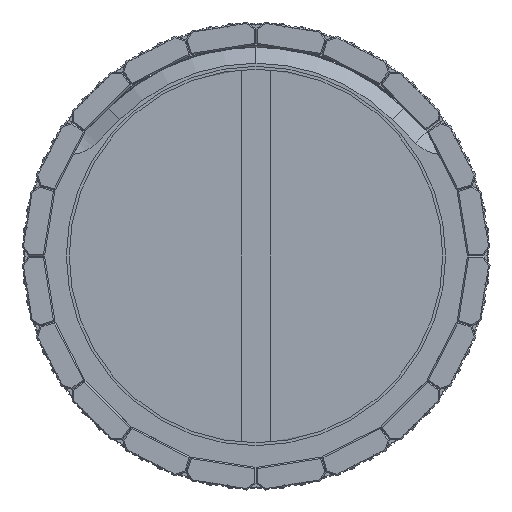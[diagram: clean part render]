
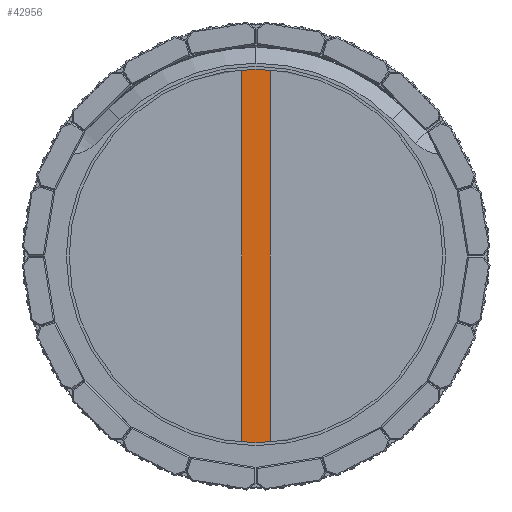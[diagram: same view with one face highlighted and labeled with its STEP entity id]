
A CAD part, front view. The second image highlights one B-rep face of the part: STEP entity #42956.
In plain terms, the highlighted planar face has unit normal (0, -1, 0).
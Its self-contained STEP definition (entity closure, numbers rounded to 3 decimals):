
#142 = CARTESIAN_POINT ( 'NONE',  ( 0., -25., 197. ) ) ;
#4128 = FACE_OUTER_BOUND ( 'NONE', #115685, .T. ) ;
#11921 = VERTEX_POINT ( 'NONE', #39109 ) ;
#17078 = LINE ( 'NONE', #33797, #176709 ) ;
#20372 = VERTEX_POINT ( 'NONE', #142 ) ;
#21113 = VERTEX_POINT ( 'NONE', #184890 ) ;
#23191 = DIRECTION ( 'NONE',  ( 0., 0., 1. ) ) ;
#33797 = CARTESIAN_POINT ( 'NONE',  ( 15., -25., 0. ) ) ;
#39109 = CARTESIAN_POINT ( 'NONE',  ( 0., -25., -197. ) ) ;
#41319 = AXIS2_PLACEMENT_3D ( 'NONE', #44845, #198832, #163184 ) ;
#41449 = DIRECTION ( 'NONE',  ( 0., 0., 1. ) ) ;
#42956 = ADVANCED_FACE ( 'NONE', ( #4128 ), #192694, .F. ) ;
#44845 = CARTESIAN_POINT ( 'NONE',  ( 0., -25., 0. ) ) ;
#45569 = EDGE_CURVE ( 'NONE', #11921, #199981, #193147, .T. ) ;
#48056 = CARTESIAN_POINT ( 'NONE',  ( 0., -25., 0. ) ) ;
#50568 = AXIS2_PLACEMENT_3D ( 'NONE', #94987, #194332, #41449 ) ;
#53301 = CARTESIAN_POINT ( 'NONE',  ( -15., -25., 0. ) ) ;
#59326 = VERTEX_POINT ( 'NONE', #220767 ) ;
#61789 = EDGE_CURVE ( 'NONE', #21113, #20372, #91184, .T. ) ;
#62824 = ORIENTED_EDGE ( 'NONE', *, *, #174124, .F. ) ;
#63704 = ORIENTED_EDGE ( 'NONE', *, *, #67648, .F. ) ;
#64783 = DIRECTION ( 'NONE',  ( 0., 0., 1. ) ) ;
#67648 = EDGE_CURVE ( 'NONE', #59326, #11921, #149474, .T. ) ;
#68234 = EDGE_CURVE ( 'NONE', #199981, #21113, #203966, .T. ) ;
#72205 = DIRECTION ( 'NONE',  ( 0., 1., 0. ) ) ;
#74417 = DIRECTION ( 'NONE',  ( 0., 0., 1. ) ) ;
#86127 = ORIENTED_EDGE ( 'NONE', *, *, #45569, .F. ) ;
#91184 = CIRCLE ( 'NONE', #126701, 197. ) ;
#94987 = CARTESIAN_POINT ( 'NONE',  ( 0., -25., 0. ) ) ;
#102439 = DIRECTION ( 'NONE',  ( 0., 0., 1. ) ) ;
#115685 = EDGE_LOOP ( 'NONE', ( #191456, #62824, #217037, #129437, #86127, #63704 ) ) ;
#124445 = AXIS2_PLACEMENT_3D ( 'NONE', #48056, #186401, #64783 ) ;
#126701 = AXIS2_PLACEMENT_3D ( 'NONE', #196117, #128062, #23191 ) ;
#128062 = DIRECTION ( 'NONE',  ( 0., 1., 0. ) ) ;
#129437 = ORIENTED_EDGE ( 'NONE', *, *, #68234, .F. ) ;
#135776 = VERTEX_POINT ( 'NONE', #205293 ) ;
#149474 = CIRCLE ( 'NONE', #124445, 197. ) ;
#149642 = VECTOR ( 'NONE', #102439, 1000. ) ;
#152130 = DIRECTION ( 'NONE',  ( 0., 0., 1. ) ) ;
#155415 = CIRCLE ( 'NONE', #41319, 197. ) ;
#163184 = DIRECTION ( 'NONE',  ( 0., 0., 1. ) ) ;
#165382 = EDGE_CURVE ( 'NONE', #59326, #135776, #17078, .T. ) ;
#174124 = EDGE_CURVE ( 'NONE', #20372, #135776, #155415, .T. ) ;
#174858 = CARTESIAN_POINT ( 'NONE',  ( 0., -25., 0. ) ) ;
#176709 = VECTOR ( 'NONE', #152130, 1000. ) ;
#184890 = CARTESIAN_POINT ( 'NONE',  ( -15., -25., 196.428 ) ) ;
#186401 = DIRECTION ( 'NONE',  ( 0., 1., 0. ) ) ;
#191456 = ORIENTED_EDGE ( 'NONE', *, *, #165382, .T. ) ;
#192694 = PLANE ( 'NONE',  #202617 ) ;
#193147 = CIRCLE ( 'NONE', #50568, 197. ) ;
#194332 = DIRECTION ( 'NONE',  ( 0., 1., 0. ) ) ;
#196117 = CARTESIAN_POINT ( 'NONE',  ( 0., -25., 0. ) ) ;
#198832 = DIRECTION ( 'NONE',  ( 0., 1., 0. ) ) ;
#199981 = VERTEX_POINT ( 'NONE', #219794 ) ;
#202617 = AXIS2_PLACEMENT_3D ( 'NONE', #174858, #72205, #74417 ) ;
#203966 = LINE ( 'NONE', #53301, #149642 ) ;
#205293 = CARTESIAN_POINT ( 'NONE',  ( 15., -25., 196.428 ) ) ;
#217037 = ORIENTED_EDGE ( 'NONE', *, *, #61789, .F. ) ;
#219794 = CARTESIAN_POINT ( 'NONE',  ( -15., -25., -196.428 ) ) ;
#220767 = CARTESIAN_POINT ( 'NONE',  ( 15., -25., -196.428 ) ) ;
